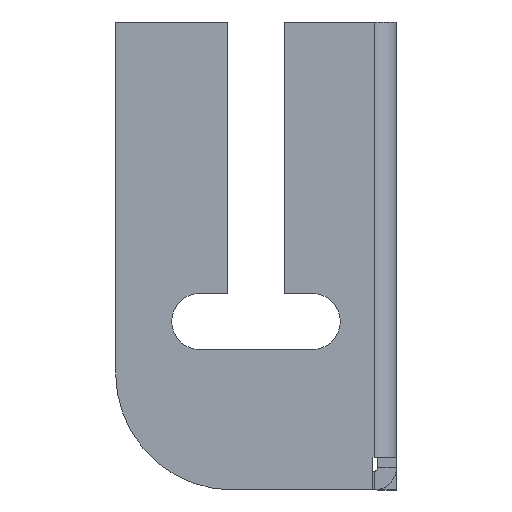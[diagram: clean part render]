
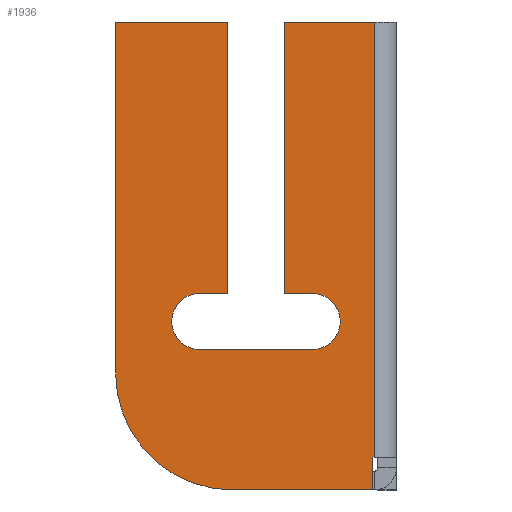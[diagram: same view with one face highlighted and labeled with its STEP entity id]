
A CAD part, left-side view. The second image highlights one B-rep face of the part: STEP entity #1936.
In plain terms, the highlighted planar face has unit normal (-1, 0, 0).
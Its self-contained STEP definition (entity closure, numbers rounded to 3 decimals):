
#32 = DIRECTION ( 'NONE',  ( 0., -1., 0. ) ) ;
#34 = EDGE_CURVE ( 'NONE', #1656, #158, #797, .T. ) ;
#44 = VERTEX_POINT ( 'NONE', #1578 ) ;
#49 = CARTESIAN_POINT ( 'NONE',  ( -4., 31., -100. ) ) ;
#59 = CARTESIAN_POINT ( 'NONE',  ( -4., 32., 0. ) ) ;
#66 = ORIENTED_EDGE ( 'NONE', *, *, #1627, .F. ) ;
#78 = CARTESIAN_POINT ( 'NONE',  ( -4., 20., -58. ) ) ;
#91 = VECTOR ( 'NONE', #2083, 1000. ) ;
#97 = DIRECTION ( 'NONE',  ( 0., -1., 0. ) ) ;
#101 = VECTOR ( 'NONE', #1528, 1000. ) ;
#113 = LINE ( 'NONE', #675, #1510 ) ;
#120 = CARTESIAN_POINT ( 'NONE',  ( -4., 56., 0. ) ) ;
#138 = LINE ( 'NONE', #1717, #529 ) ;
#150 = VECTOR ( 'NONE', #1018, 1000. ) ;
#158 = VERTEX_POINT ( 'NONE', #830 ) ;
#189 = DIRECTION ( 'NONE',  ( 0., 0., -1. ) ) ;
#201 = EDGE_CURVE ( 'NONE', #158, #739, #875, .T. ) ;
#227 = VECTOR ( 'NONE', #1806, 1000. ) ;
#243 = AXIS2_PLACEMENT_3D ( 'NONE', #524, #1316, #1167 ) ;
#259 = AXIS2_PLACEMENT_3D ( 'NONE', #1383, #1836, #1065 ) ;
#295 = VERTEX_POINT ( 'NONE', #1268 ) ;
#314 = AXIS2_PLACEMENT_3D ( 'NONE', #834, #854, #32 ) ;
#316 = LINE ( 'NONE', #1471, #648 ) ;
#328 = AXIS2_PLACEMENT_3D ( 'NONE', #583, #711, #1252 ) ;
#337 = DIRECTION ( 'NONE',  ( 0., 1., 0. ) ) ;
#339 = VERTEX_POINT ( 'NONE', #1622 ) ;
#342 = VERTEX_POINT ( 'NONE', #650 ) ;
#362 = VECTOR ( 'NONE', #821, 1000. ) ;
#399 = CARTESIAN_POINT ( 'NONE',  ( -4., 20., 0. ) ) ;
#410 = LINE ( 'NONE', #976, #868 ) ;
#501 = EDGE_CURVE ( 'NONE', #339, #1238, #316, .T. ) ;
#512 = DIRECTION ( 'NONE',  ( 0., 1., 0. ) ) ;
#524 = CARTESIAN_POINT ( 'NONE',  ( -4., 14., -64. ) ) ;
#529 = VECTOR ( 'NONE', #97, 1000. ) ;
#540 = EDGE_CURVE ( 'NONE', #690, #2039, #1149, .T. ) ;
#550 = CARTESIAN_POINT ( 'NONE',  ( -4., 32., -58. ) ) ;
#552 = EDGE_CURVE ( 'NONE', #1955, #1446, #1934, .T. ) ;
#583 = CARTESIAN_POINT ( 'NONE',  ( -4., 0., 0. ) ) ;
#596 = ORIENTED_EDGE ( 'NONE', *, *, #921, .F. ) ;
#611 = LINE ( 'NONE', #399, #101 ) ;
#613 = EDGE_CURVE ( 'NONE', #342, #1586, #113, .T. ) ;
#626 = CARTESIAN_POINT ( 'NONE',  ( -4., 38., -70. ) ) ;
#648 = VECTOR ( 'NONE', #1951, 1000. ) ;
#650 = CARTESIAN_POINT ( 'NONE',  ( -4., 1., -100. ) ) ;
#675 = CARTESIAN_POINT ( 'NONE',  ( -4., 56., -100. ) ) ;
#689 = ORIENTED_EDGE ( 'NONE', *, *, #613, .F. ) ;
#690 = VERTEX_POINT ( 'NONE', #1592 ) ;
#694 = DIRECTION ( 'NONE',  ( 0., 1., 0. ) ) ;
#699 = EDGE_LOOP ( 'NONE', ( #1653, #932, #689, #2089, #841, #2021, #1358, #1089, #1987, #596, #1896, #66, #2027, #1981, #1779, #1285 ) ) ;
#711 = DIRECTION ( 'NONE',  ( -1., 0., 0. ) ) ;
#718 = EDGE_CURVE ( 'NONE', #1707, #44, #744, .T. ) ;
#724 = VECTOR ( 'NONE', #968, 1000. ) ;
#734 = LINE ( 'NONE', #1011, #150 ) ;
#739 = VERTEX_POINT ( 'NONE', #626 ) ;
#744 = LINE ( 'NONE', #120, #91 ) ;
#779 = LINE ( 'NONE', #1816, #1817 ) ;
#797 = LINE ( 'NONE', #1785, #2048 ) ;
#813 = CARTESIAN_POINT ( 'NONE',  ( -4., 0., 0. ) ) ;
#821 = DIRECTION ( 'NONE',  ( 0., -1., 0. ) ) ;
#830 = CARTESIAN_POINT ( 'NONE',  ( -4., 38., -58. ) ) ;
#834 = CARTESIAN_POINT ( 'NONE',  ( -4., 14., -64. ) ) ;
#841 = ORIENTED_EDGE ( 'NONE', *, *, #1670, .F. ) ;
#854 = DIRECTION ( 'NONE',  ( -1., 0., 0. ) ) ;
#868 = VECTOR ( 'NONE', #189, 1000. ) ;
#875 = CIRCLE ( 'NONE', #259, 6. ) ;
#921 = EDGE_CURVE ( 'NONE', #1446, #339, #1386, .T. ) ;
#932 = ORIENTED_EDGE ( 'NONE', *, *, #1885, .T. ) ;
#951 = LINE ( 'NONE', #813, #362 ) ;
#968 = DIRECTION ( 'NONE',  ( 0., 0., 1. ) ) ;
#976 = CARTESIAN_POINT ( 'NONE',  ( -4., 1., -100. ) ) ;
#1007 = LINE ( 'NONE', #59, #227 ) ;
#1011 = CARTESIAN_POINT ( 'NONE',  ( -4., 38., -70. ) ) ;
#1018 = DIRECTION ( 'NONE',  ( 0., -1., 0. ) ) ;
#1065 = DIRECTION ( 'NONE',  ( 0., -1., 0. ) ) ;
#1089 = ORIENTED_EDGE ( 'NONE', *, *, #1868, .F. ) ;
#1113 = CARTESIAN_POINT ( 'NONE',  ( -4., 56., -75. ) ) ;
#1124 = CARTESIAN_POINT ( 'NONE',  ( -4., 0.737, 0. ) ) ;
#1149 = LINE ( 'NONE', #1124, #724 ) ;
#1167 = DIRECTION ( 'NONE',  ( 0., -1., 0. ) ) ;
#1215 = DIRECTION ( 'NONE',  ( -1., 0., 0. ) ) ;
#1238 = VERTEX_POINT ( 'NONE', #78 ) ;
#1244 = CARTESIAN_POINT ( 'NONE',  ( -4., 14., -70. ) ) ;
#1252 = DIRECTION ( 'NONE',  ( 0., -1., 0. ) ) ;
#1256 = CARTESIAN_POINT ( 'NONE',  ( -4., 1., -93. ) ) ;
#1259 = EDGE_CURVE ( 'NONE', #44, #1604, #138, .T. ) ;
#1268 = CARTESIAN_POINT ( 'NONE',  ( -4., 20., 0. ) ) ;
#1285 = ORIENTED_EDGE ( 'NONE', *, *, #1259, .F. ) ;
#1316 = DIRECTION ( 'NONE',  ( -1., 0., 0. ) ) ;
#1358 = ORIENTED_EDGE ( 'NONE', *, *, #1482, .F. ) ;
#1362 = CARTESIAN_POINT ( 'NONE',  ( -4., 31., -75. ) ) ;
#1371 = EDGE_CURVE ( 'NONE', #1604, #1656, #1007, .T. ) ;
#1383 = CARTESIAN_POINT ( 'NONE',  ( -4., 38., -64. ) ) ;
#1386 = CIRCLE ( 'NONE', #243, 6. ) ;
#1445 = FACE_OUTER_BOUND ( 'NONE', #699, .T. ) ;
#1446 = VERTEX_POINT ( 'NONE', #1658 ) ;
#1471 = CARTESIAN_POINT ( 'NONE',  ( -4., 20., -58. ) ) ;
#1474 = EDGE_CURVE ( 'NONE', #2010, #342, #410, .T. ) ;
#1482 = EDGE_CURVE ( 'NONE', #295, #2039, #951, .T. ) ;
#1510 = VECTOR ( 'NONE', #512, 1000. ) ;
#1512 = CARTESIAN_POINT ( 'NONE',  ( -4., 32., 0. ) ) ;
#1528 = DIRECTION ( 'NONE',  ( 0., 0., 1. ) ) ;
#1574 = CARTESIAN_POINT ( 'NONE',  ( -4., 0.737, 0. ) ) ;
#1578 = CARTESIAN_POINT ( 'NONE',  ( -4., 56., 0. ) ) ;
#1586 = VERTEX_POINT ( 'NONE', #49 ) ;
#1592 = CARTESIAN_POINT ( 'NONE',  ( -4., 0.737, -93. ) ) ;
#1604 = VERTEX_POINT ( 'NONE', #1512 ) ;
#1622 = CARTESIAN_POINT ( 'NONE',  ( -4., 14., -58. ) ) ;
#1627 = EDGE_CURVE ( 'NONE', #739, #1955, #734, .T. ) ;
#1653 = ORIENTED_EDGE ( 'NONE', *, *, #718, .F. ) ;
#1656 = VERTEX_POINT ( 'NONE', #550 ) ;
#1658 = CARTESIAN_POINT ( 'NONE',  ( -4., 8., -64. ) ) ;
#1670 = EDGE_CURVE ( 'NONE', #690, #2010, #779, .T. ) ;
#1673 = CIRCLE ( 'NONE', #1973, 25. ) ;
#1699 = PLANE ( 'NONE',  #328 ) ;
#1707 = VERTEX_POINT ( 'NONE', #1113 ) ;
#1717 = CARTESIAN_POINT ( 'NONE',  ( -4., 0., 0. ) ) ;
#1779 = ORIENTED_EDGE ( 'NONE', *, *, #1371, .F. ) ;
#1785 = CARTESIAN_POINT ( 'NONE',  ( -4., 38., -58. ) ) ;
#1806 = DIRECTION ( 'NONE',  ( 0., 0., -1. ) ) ;
#1816 = CARTESIAN_POINT ( 'NONE',  ( -4., -4., -93. ) ) ;
#1817 = VECTOR ( 'NONE', #694, 1000. ) ;
#1836 = DIRECTION ( 'NONE',  ( -1., 0., 0. ) ) ;
#1840 = DIRECTION ( 'NONE',  ( 0., -1., 0. ) ) ;
#1868 = EDGE_CURVE ( 'NONE', #1238, #295, #611, .T. ) ;
#1885 = EDGE_CURVE ( 'NONE', #1707, #1586, #1673, .T. ) ;
#1896 = ORIENTED_EDGE ( 'NONE', *, *, #552, .F. ) ;
#1934 = CIRCLE ( 'NONE', #314, 6. ) ;
#1936 = ADVANCED_FACE ( 'NONE', ( #1445 ), #1699, .T. ) ;
#1951 = DIRECTION ( 'NONE',  ( 0., 1., 0. ) ) ;
#1955 = VERTEX_POINT ( 'NONE', #1244 ) ;
#1973 = AXIS2_PLACEMENT_3D ( 'NONE', #1362, #1215, #1840 ) ;
#1981 = ORIENTED_EDGE ( 'NONE', *, *, #34, .F. ) ;
#1987 = ORIENTED_EDGE ( 'NONE', *, *, #501, .F. ) ;
#2010 = VERTEX_POINT ( 'NONE', #1256 ) ;
#2021 = ORIENTED_EDGE ( 'NONE', *, *, #540, .T. ) ;
#2027 = ORIENTED_EDGE ( 'NONE', *, *, #201, .F. ) ;
#2039 = VERTEX_POINT ( 'NONE', #1574 ) ;
#2048 = VECTOR ( 'NONE', #337, 1000. ) ;
#2083 = DIRECTION ( 'NONE',  ( 0., 0., 1. ) ) ;
#2089 = ORIENTED_EDGE ( 'NONE', *, *, #1474, .F. ) ;
